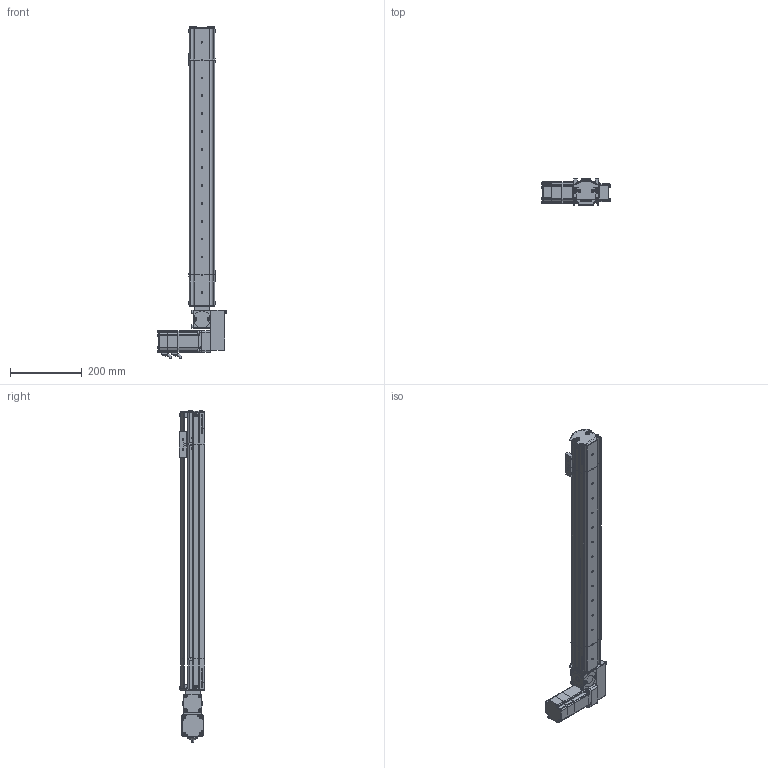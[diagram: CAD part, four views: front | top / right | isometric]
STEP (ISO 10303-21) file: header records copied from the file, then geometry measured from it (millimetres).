
FILE_DESCRIPTION (( 'STEP AP214' ), '1' );
FILE_NAME ('S07 TBN LH S600.STEP', '2010-06-29T11:34:34', ( 'Conseil Régional Haute-Normandie' ), ( 'Conseil Régional Haute-Normandie' ), 'SwSTEP 2.0', 'SolidWorks 2010', '' );
FILE_SCHEMA (( 'AUTOMOTIVE_DESIGN' ));
Length unit declared in the file: millimetre
Products named in the file (41): Pièce5^S07 LH(146); couvercle tail TB; Couroie  course 600_Default; cache t皻e_Default; S07 LH(146)_Default; T皻e de poulie_Default; Corp S07 course 600_Default; plaque de bout LH_Default; corp moteur LH-RH(146)_Default; couvercle S07 course 600 ; vis M5 L5_Default; cache t皻e axe_Default; Poulie head_Default; couvercle moteur S07 TB; renvoi LH_Default; Plaque racord_Default; Poulie_Default; Conecteur 60BLDC_Default; Axe 60BLDC_Default; S07 TB tail (78)_Default; Vis M5 L16-2_Default; P1_Default; VisM3_Default; Conecteur2 60BLDC_Default; P4_Default; P3 90A_Default; P2 90A_Default; plaque de bout_Default; corp tail TB_Default; GMB 60 90 310_Default; Couroie t皻e_Default; Cvis M5 L30_Default; vis M5 L16_Default; couroie tail_Default; guide; vis M5 L12_Default; CHariot_Default; Chariot; Course C L600_Default; S07 TBN LH S600
Assembly tree (80 placements, depth 4):
  Pièce5^S07 LH(146)
  S07 TBN LH S600
    S07 TB tail (78)_Default
      Poulie_Default
        Poulie_Default
        T皻e de poulie_Default
      vis M5 L12_Default  x10
      couvercle tail TB
      plaque de bout_Default
      corp tail TB_Default
      couroie tail_Default
    Course C L600_Default
      Couroie  course 600_Default
      couvercle S07 course 600 
      Corp S07 course 600_Default
    CHariot_Default
      guide
      vis M5 L16_Default  x2
      Chariot
    S07 LH(146)_Default
      Plaque racord_Default
      vis M5 L12_Default  x6
      Vis M5 L16-2_Default  x8
      GMB 60 90 310_Default
        P1_Default
        Conecteur2 60BLDC_Default
        VisM3_Default  x12
        P2 90A_Default
        P3 90A_Default
        Axe 60BLDC_Default
        P4_Default
        Conecteur 60BLDC_Default
      renvoi LH_Default
      vis M5 L5_Default  x6
      Poulie head_Default
      cache t皻e_Default  x2
      Couroie t皻e_Default
      couvercle moteur S07 TB
      plaque de bout LH_Default
      corp moteur LH-RH(146)_Default
      cache t皻e axe_Default
      Cvis M5 L30_Default  x2
Bounding box: 190.2 x 72.2 x 927 mm (x, y, z)
Volume: 2023183.9 mm3; surface area: 831263.7 mm2
Topology: 102 solids, 102 shells, 3914 faces, 9756 edges, 6301 vertices
Faces by surface type: plane 2228, cylinder 756, bspline 677, cone 125, torus 124, sphere 4
Entity records: 167009 total; most frequent: CARTESIAN_POINT 75175, ORIENTED_EDGE 15424, DIRECTION 12249, EDGE_CURVE 7712, VERTEX_POINT 5089, VECTOR 5043, LINE 5043, AXIS2_PLACEMENT_3D 3603
